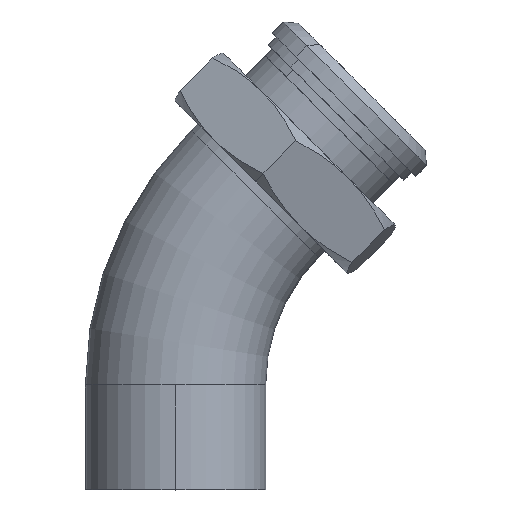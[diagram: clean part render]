
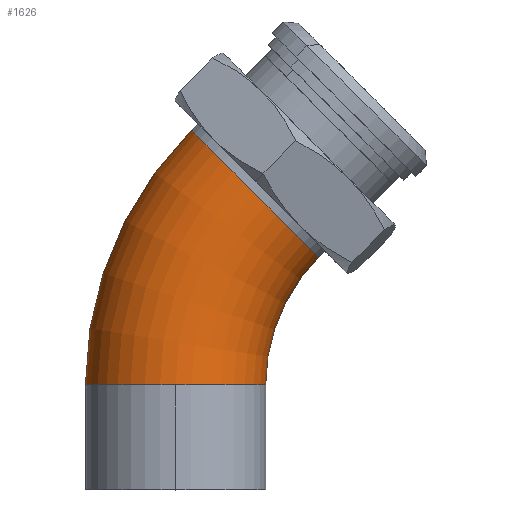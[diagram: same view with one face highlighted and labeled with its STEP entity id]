
A CAD part, top view. The second image highlights one B-rep face of the part: STEP entity #1626.
In plain terms, the highlighted toroidal (fillet/blend) face has major radius 152.4 mm and minor radius 50.8 mm.
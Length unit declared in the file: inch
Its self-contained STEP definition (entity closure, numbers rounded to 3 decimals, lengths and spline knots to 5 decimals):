
#67 = EDGE_CURVE ( 'NONE', #839, #1474, #2578, .T. ) ;
#126 = EDGE_CURVE ( 'NONE', #839, #3453, #476, .T. ) ;
#134 = EDGE_CURVE ( 'NONE', #3453, #4233, #3309, .T. ) ;
#164 = EDGE_CURVE ( 'NONE', #4233, #1415, #4315, .T. ) ;
#223 = EDGE_CURVE ( 'NONE', #1474, #1415, #1372, .T. ) ;
#276 = DIRECTION ( 'NONE',  ( -0.707, 0.707, 0. ) ) ;
#314 = CARTESIAN_POINT ( 'NONE',  ( 6., 2.32672, 0. ) ) ;
#476 = CIRCLE ( 'NONE', #4609, 8. ) ;
#785 = CARTESIAN_POINT ( 'NONE',  ( 1.75736, 6.56936, 0. ) ) ;
#839 = VERTEX_POINT ( 'NONE', #3788 ) ;
#1053 = CARTESIAN_POINT ( 'NONE',  ( 0., 2.32672, 0. ) ) ;
#1101 = CARTESIAN_POINT ( 'NONE',  ( 0., 2.32672, 0. ) ) ;
#1309 = ORIENTED_EDGE ( 'NONE', *, *, #223, .F. ) ;
#1372 = CIRCLE ( 'NONE', #4358, 4. ) ;
#1415 = VERTEX_POINT ( 'NONE', #3635 ) ;
#1423 = DIRECTION ( 'NONE',  ( 0., 1., 0. ) ) ;
#1474 = VERTEX_POINT ( 'NONE', #1617 ) ;
#1517 = ORIENTED_EDGE ( 'NONE', *, *, #67, .F. ) ;
#1549 = DIRECTION ( 'NONE',  ( 0., 0., 1. ) ) ;
#1617 = CARTESIAN_POINT ( 'NONE',  ( 3.17157, 5.15515, 0. ) ) ;
#1626 = ADVANCED_FACE ( 'NONE', ( #3281 ), #4043, .T. ) ;
#1863 = DIRECTION ( 'NONE',  ( 0., 1., 0. ) ) ;
#2183 = CARTESIAN_POINT ( 'NONE',  ( 6., 2.32672, 0. ) ) ;
#2509 = DIRECTION ( 'NONE',  ( -1., 0., 0. ) ) ;
#2578 = CIRCLE ( 'NONE', #3522, 2. ) ;
#2726 = DIRECTION ( 'NONE',  ( 0.707, 0.707, 0. ) ) ;
#3255 = CARTESIAN_POINT ( 'NONE',  ( -2., 2.32672, 0. ) ) ;
#3281 = FACE_OUTER_BOUND ( 'NONE', #4540, .T. ) ;
#3300 = DIRECTION ( 'NONE',  ( 0., 0., 1. ) ) ;
#3309 = CIRCLE ( 'NONE', #4795, 2. ) ;
#3366 = DIRECTION ( 'NONE',  ( 1., 0., 0. ) ) ;
#3453 = VERTEX_POINT ( 'NONE', #3255 ) ;
#3522 = AXIS2_PLACEMENT_3D ( 'NONE', #785, #2726, #276 ) ;
#3527 = ORIENTED_EDGE ( 'NONE', *, *, #164, .T. ) ;
#3611 = DIRECTION ( 'NONE',  ( -1., 0., 0. ) ) ;
#3635 = CARTESIAN_POINT ( 'NONE',  ( 2., 2.32672, 0. ) ) ;
#3676 = DIRECTION ( 'NONE',  ( 0., 0., 1. ) ) ;
#3788 = CARTESIAN_POINT ( 'NONE',  ( 0.34315, 7.98357, 0. ) ) ;
#4043 = TOROIDAL_SURFACE ( 'NONE', #4257, 6., 2. ) ;
#4070 = DIRECTION ( 'NONE',  ( 1., 0., 0. ) ) ;
#4123 = CARTESIAN_POINT ( 'NONE',  ( 0., 2.32672, 2. ) ) ;
#4233 = VERTEX_POINT ( 'NONE', #4123 ) ;
#4257 = AXIS2_PLACEMENT_3D ( 'NONE', #4510, #1549, #3366 ) ;
#4315 = CIRCLE ( 'NONE', #4705, 2. ) ;
#4358 = AXIS2_PLACEMENT_3D ( 'NONE', #2183, #3300, #4070 ) ;
#4393 = DIRECTION ( 'NONE',  ( 1., 0., 0. ) ) ;
#4454 = ORIENTED_EDGE ( 'NONE', *, *, #126, .T. ) ;
#4510 = CARTESIAN_POINT ( 'NONE',  ( 6., 2.32672, 0. ) ) ;
#4540 = EDGE_LOOP ( 'NONE', ( #1517, #4454, #4769, #3527, #1309 ) ) ;
#4609 = AXIS2_PLACEMENT_3D ( 'NONE', #314, #3676, #4393 ) ;
#4705 = AXIS2_PLACEMENT_3D ( 'NONE', #1053, #1863, #2509 ) ;
#4769 = ORIENTED_EDGE ( 'NONE', *, *, #134, .T. ) ;
#4795 = AXIS2_PLACEMENT_3D ( 'NONE', #1101, #1423, #3611 ) ;
